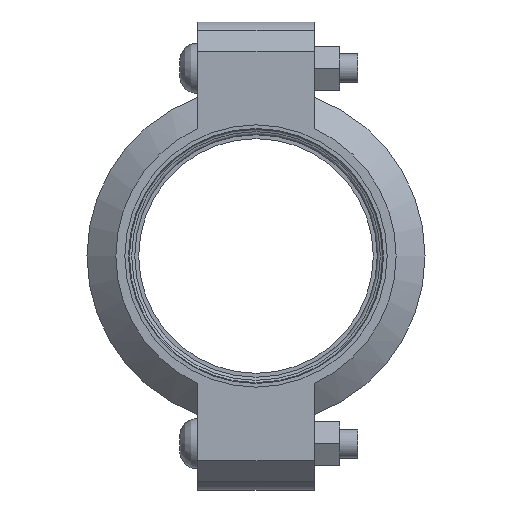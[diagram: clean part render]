
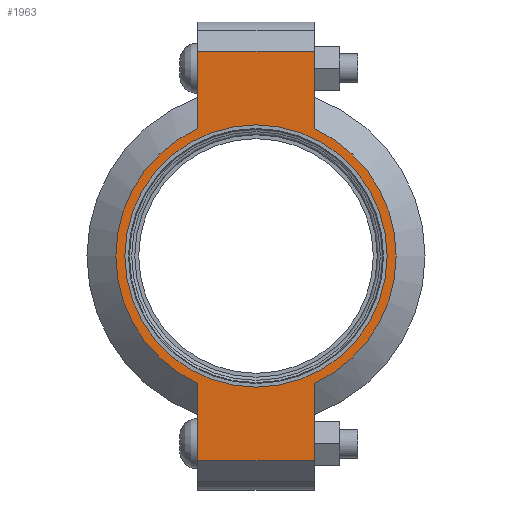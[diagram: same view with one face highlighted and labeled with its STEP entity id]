
A CAD part, left-side view. The second image highlights one B-rep face of the part: STEP entity #1963.
In plain terms, the highlighted planar face has unit normal (-1, 0, 0) as drawn and (0, 0, 1) by its records, which use the part's own axes.
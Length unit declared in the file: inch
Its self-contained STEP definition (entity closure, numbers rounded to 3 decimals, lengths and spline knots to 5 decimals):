
#152=LINE('',#3479,#249);
#160=LINE('',#3515,#257);
#167=LINE('',#3536,#264);
#176=LINE('',#3568,#273);
#177=LINE('',#3572,#274);
#178=LINE('',#3574,#275);
#249=VECTOR('',#2835,0.3937);
#257=VECTOR('',#2851,0.3937);
#264=VECTOR('',#2870,0.3937);
#273=VECTOR('',#2895,0.3937);
#274=VECTOR('',#2900,0.3937);
#275=VECTOR('',#2901,0.3937);
#331=FACE_BOUND('',#581,.T.);
#375=PLANE('',#2302);
#463=FACE_OUTER_BOUND('',#580,.T.);
#580=EDGE_LOOP('',(#1684,#1685,#1686,#1687,#1688,#1689,#1690,#1691));
#581=EDGE_LOOP('',(#1692));
#753=CIRCLE('',#2303,2.405);
#754=CIRCLE('',#2304,2.405);
#755=CIRCLE('',#2305,2.25);
#917=VERTEX_POINT('',#3476);
#918=VERTEX_POINT('',#3478);
#929=VERTEX_POINT('',#3510);
#930=VERTEX_POINT('',#3514);
#937=VERTEX_POINT('',#3533);
#938=VERTEX_POINT('',#3535);
#948=VERTEX_POINT('',#3571);
#949=VERTEX_POINT('',#3573);
#950=VERTEX_POINT('',#3576);
#1162=EDGE_CURVE('',#918,#917,#152,.T.);
#1176=EDGE_CURVE('',#930,#929,#160,.T.);
#1186=EDGE_CURVE('',#938,#937,#167,.T.);
#1201=EDGE_CURVE('',#930,#917,#176,.T.);
#1202=EDGE_CURVE('',#929,#938,#753,.T.);
#1203=EDGE_CURVE('',#948,#937,#177,.T.);
#1204=EDGE_CURVE('',#948,#949,#178,.T.);
#1205=EDGE_CURVE('',#949,#918,#754,.T.);
#1206=EDGE_CURVE('',#950,#950,#755,.T.);
#1684=ORIENTED_EDGE('',*,*,#1201,.F.);
#1685=ORIENTED_EDGE('',*,*,#1176,.T.);
#1686=ORIENTED_EDGE('',*,*,#1202,.T.);
#1687=ORIENTED_EDGE('',*,*,#1186,.T.);
#1688=ORIENTED_EDGE('',*,*,#1203,.F.);
#1689=ORIENTED_EDGE('',*,*,#1204,.T.);
#1690=ORIENTED_EDGE('',*,*,#1205,.T.);
#1691=ORIENTED_EDGE('',*,*,#1162,.T.);
#1692=ORIENTED_EDGE('',*,*,#1206,.T.);
#1963=ADVANCED_FACE('',(#463,#331),#375,.T.);
#2302=AXIS2_PLACEMENT_3D('',#3569,#2896,#2897);
#2303=AXIS2_PLACEMENT_3D('',#3570,#2898,#2899);
#2304=AXIS2_PLACEMENT_3D('',#3575,#2902,#2903);
#2305=AXIS2_PLACEMENT_3D('',#3577,#2904,#2905);
#2835=DIRECTION('',(1.,0.,0.));
#2851=DIRECTION('',(-1.,0.,0.));
#2870=DIRECTION('',(-1.,0.,0.));
#2895=DIRECTION('',(0.,-1.,0.));
#2896=DIRECTION('center_axis',(0.,0.,1.));
#2897=DIRECTION('ref_axis',(-1.,0.,0.));
#2898=DIRECTION('center_axis',(0.,0.,1.));
#2899=DIRECTION('ref_axis',(1.,0.,0.));
#2900=DIRECTION('',(0.,1.,0.));
#2901=DIRECTION('',(1.,0.,0.));
#2902=DIRECTION('center_axis',(0.,0.,1.));
#2903=DIRECTION('ref_axis',(1.,0.,0.));
#2904=DIRECTION('center_axis',(0.,0.,-1.));
#2905=DIRECTION('ref_axis',(1.,0.,0.));
#3476=CARTESIAN_POINT('',(3.515,-1.,1.065));
#3478=CARTESIAN_POINT('',(2.18724,-1.,1.065));
#3479=CARTESIAN_POINT('',(4.015,-1.,1.065));
#3510=CARTESIAN_POINT('',(2.18724,1.,1.065));
#3514=CARTESIAN_POINT('',(3.515,1.,1.065));
#3515=CARTESIAN_POINT('',(-4.015,1.,1.065));
#3533=CARTESIAN_POINT('',(-3.515,1.,1.065));
#3535=CARTESIAN_POINT('',(-2.18724,1.,1.065));
#3536=CARTESIAN_POINT('',(-4.015,1.,1.065));
#3568=CARTESIAN_POINT('',(3.515,-0.5,1.065));
#3569=CARTESIAN_POINT('Origin',(0.,0.,
1.065));
#3570=CARTESIAN_POINT('Origin',(0.,0.,1.065));
#3571=CARTESIAN_POINT('',(-3.515,-1.,1.065));
#3572=CARTESIAN_POINT('',(-3.515,0.5,1.065));
#3573=CARTESIAN_POINT('',(-2.18724,-1.,1.065));
#3574=CARTESIAN_POINT('',(4.015,-1.,1.065));
#3575=CARTESIAN_POINT('Origin',(0.,0.,1.065));
#3576=CARTESIAN_POINT('',(-2.25,0.,1.065));
#3577=CARTESIAN_POINT('Origin',(0.,0.,1.065));
